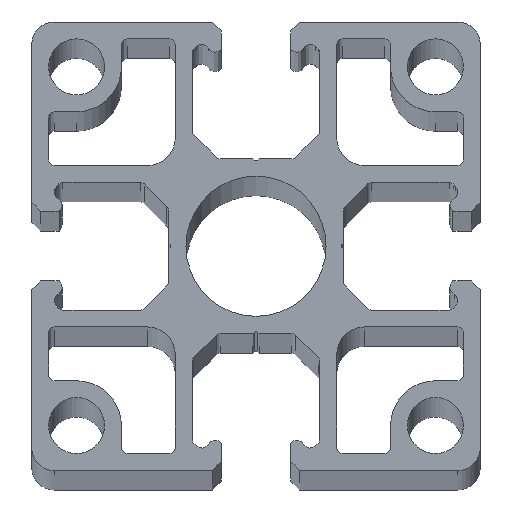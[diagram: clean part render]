
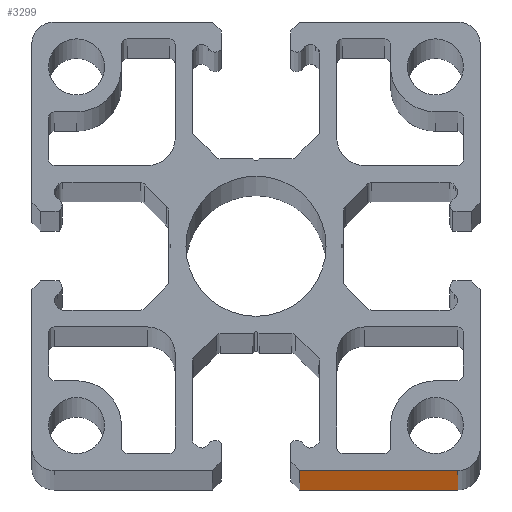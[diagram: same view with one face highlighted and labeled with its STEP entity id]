
A CAD part, top view. The second image highlights one B-rep face of the part: STEP entity #3299.
In plain terms, the highlighted planar face has unit normal (0, -1, 0).
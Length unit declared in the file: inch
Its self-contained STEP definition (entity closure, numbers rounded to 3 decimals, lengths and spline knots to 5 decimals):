
#82=PLANE('',#3612);
#219=FACE_OUTER_BOUND('',#395,.T.);
#395=EDGE_LOOP('',(#2681,#2682,#2683,#2684));
#600=LINE('',#5106,#941);
#706=LINE('',#5411,#1047);
#707=LINE('',#5414,#1048);
#708=LINE('',#5415,#1049);
#941=VECTOR('',#4102,0.3937);
#1047=VECTOR('',#4386,0.3937);
#1048=VECTOR('',#4389,0.3937);
#1049=VECTOR('',#4390,0.3937);
#1460=VERTEX_POINT('',#5103);
#1461=VERTEX_POINT('',#5105);
#1571=VERTEX_POINT('',#5409);
#1572=VERTEX_POINT('',#5413);
#1843=EDGE_CURVE('',#1460,#1461,#600,.T.);
#1996=EDGE_CURVE('',#1460,#1571,#706,.T.);
#1997=EDGE_CURVE('',#1572,#1571,#707,.T.);
#1998=EDGE_CURVE('',#1461,#1572,#708,.T.);
#2681=ORIENTED_EDGE('',*,*,#1996,.T.);
#2682=ORIENTED_EDGE('',*,*,#1997,.F.);
#2683=ORIENTED_EDGE('',*,*,#1998,.F.);
#2684=ORIENTED_EDGE('',*,*,#1843,.F.);
#3299=ADVANCED_FACE('',(#219),#82,.T.);
#3612=AXIS2_PLACEMENT_3D('',#5412,#4387,#4388);
#4102=DIRECTION('',(-1.,0.,0.));
#4386=DIRECTION('',(0.,0.,1.));
#4387=DIRECTION('center_axis',(0.,-1.,0.));
#4388=DIRECTION('ref_axis',(1.,0.,0.));
#4389=DIRECTION('',(1.,0.,0.));
#4390=DIRECTION('',(0.,0.,1.));
#5103=CARTESIAN_POINT('',(0.70866,-0.7874,-19.68504));
#5105=CARTESIAN_POINT('',(0.15354,-0.7874,-19.68504));
#5106=CARTESIAN_POINT('',(0.15354,-0.7874,-19.68504));
#5409=CARTESIAN_POINT('',(0.70866,-0.7874,19.68504));
#5411=CARTESIAN_POINT('',(0.70866,-0.7874,0.));
#5412=CARTESIAN_POINT('Origin',(0.15354,-0.7874,0.));
#5413=CARTESIAN_POINT('',(0.15354,-0.7874,19.68504));
#5414=CARTESIAN_POINT('',(0.15354,-0.7874,19.68504));
#5415=CARTESIAN_POINT('',(0.15354,-0.7874,0.));
